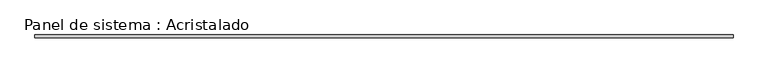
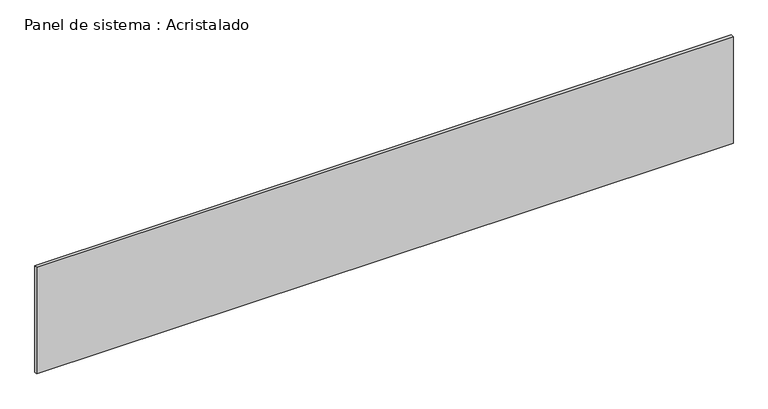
"""IFC4 building model written with IfcOpenShell, lengths in millimetres: plate geometry, Panel de sistema : Acristalado."""

from ifc_helpers import new_model, si_unit, origin, origin_with_axes, place, context, project, spatial, polyline, outline, extrude, source, transform, mapped, element, save


def panel_de_sistema_acristalado_fc70a705(model_context):
    return source(origin(), model_context, "Body", "SweptSolid", [
        extrude(outline(polyline([(2475.0, -10.0), (-2475.0, -10.0), (-2475.0, 10.0), (2475.0, 10.0), (2475.0, -10.0)])), origin_with_axes(), (0.0, 0.0, 1.0), 800.0),
    ])


if __name__ == "__main__":
    model = new_model("IFC4")
    model_context = context("Model", 3, world=origin())
    ifc_project = project(units=[si_unit("LENGTHUNIT", "METRE", prefix="MILLI")], contexts=[model_context])
    site = spatial("IfcSite", under=ifc_project)
    building = spatial("IfcBuilding", under=site)
    placement = place(None, origin())
    panel_de_sistema_acristalado_shape = panel_de_sistema_acristalado_fc70a705(model_context)
    element("IfcPlate", 1, ObjectType="Panel de sistema : Acristalado", at=placement, inside=building, context=model_context, shape_type="MappedRepresentation", body=[
        mapped(panel_de_sistema_acristalado_shape, transform((0.0, 0.0, 0.0), x_axis=(1.0, 0.0, 0.0), y_axis=(0.0, 1.0, 0.0), z_axis=(0.0, 0.0, 1.0))),
    ])
    save(model, "model.ifc")
